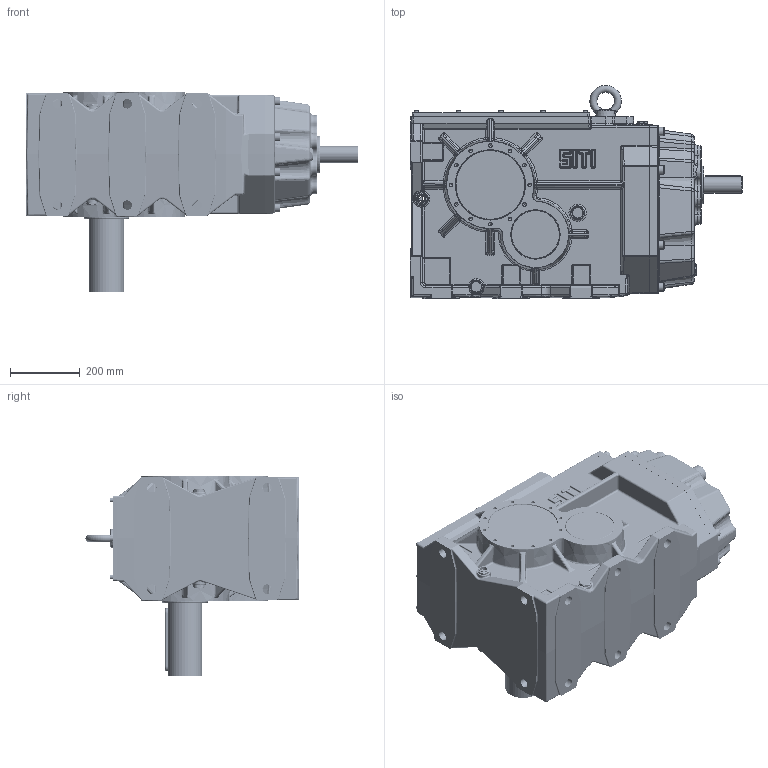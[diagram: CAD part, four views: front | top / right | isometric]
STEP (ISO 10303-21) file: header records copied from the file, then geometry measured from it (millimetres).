
FILE_DESCRIPTION((''),'2;1');
FILE_NAME('O:\Figurini\Figurini BH\3D\180\BH 180 MS-A.stp','2013-05-22T10:29:43',('d.iannaccio'),(''),'Autodesk Inventor 2012','Autodesk Inventor 2012','');
FILE_SCHEMA(('AUTOMOTIVE_DESIGN { 1 0 10303 214 1 1 1 1 }'));
Length unit declared in the file: millimetre
Products named in the file (1): BH_180 MS-A
Bounding box: 950.5 x 609.89 x 575 mm (x, y, z)
Volume: 40119177.1 mm3; surface area: 4149757.3 mm2
Topology: 3 solids, 51 shells, 3641 faces, 8620 edges, 5089 vertices
Faces by surface type: cylinder 1169, plane 969, bspline 695, torus 384, cone 230, sphere 194
Full cylindrical faces by diameter (mm): 2.4 x1, 6.647 x12, 8 x24, 8.4 x1, 9 x12, 10 x19, 10.106 x26, 10.5 x3, 13 x12, 13.835 x8, 16 x8, 17 x9, 17.25 x2, 18 x1, 19.6 x1, 20 x4, 20.752 x2, 21 x2, 24 x8, 24.117 x8, 26.5 x2, 27 x10, 31 x7, 31.9 x1, 40 x1, 48 x1, 62 x1, 64.4 x1, 65 x2, 76.5 x2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
Entity records: 125223 total; most frequent: CARTESIAN_POINT 44690, DIRECTION 15770, ORIENTED_EDGE 15506, EDGE_CURVE 7753, AXIS2_PLACEMENT_3D 6503, VERTEX_POINT 4833, EDGE_LOOP 4354, STYLED_ITEM 3642
